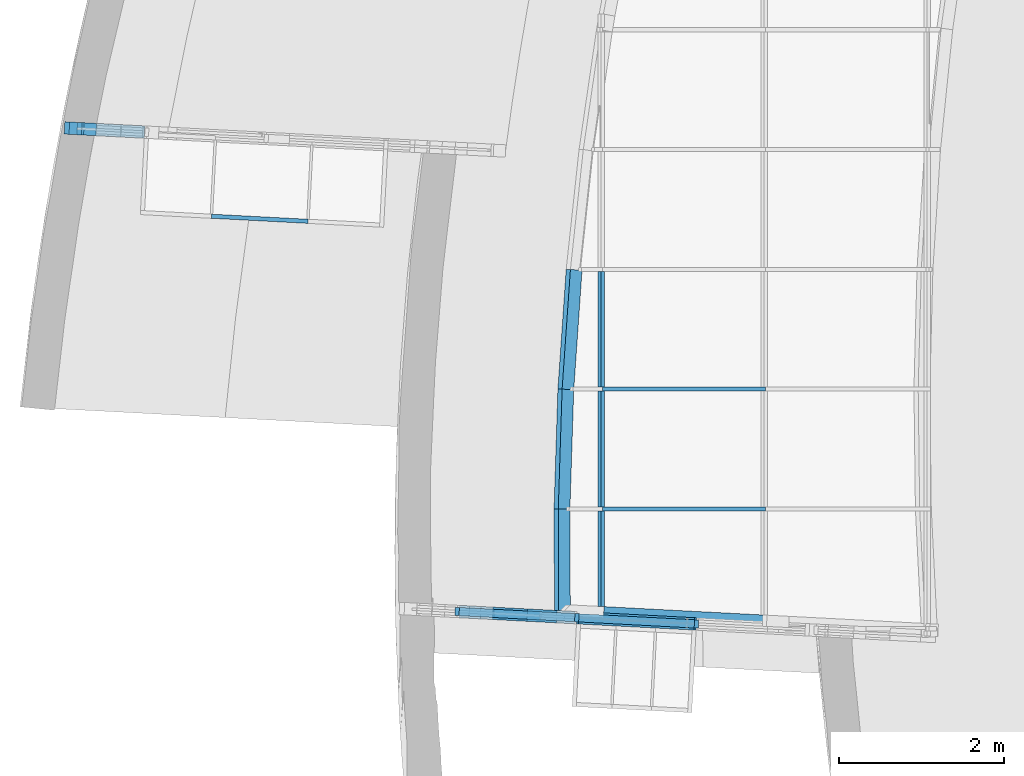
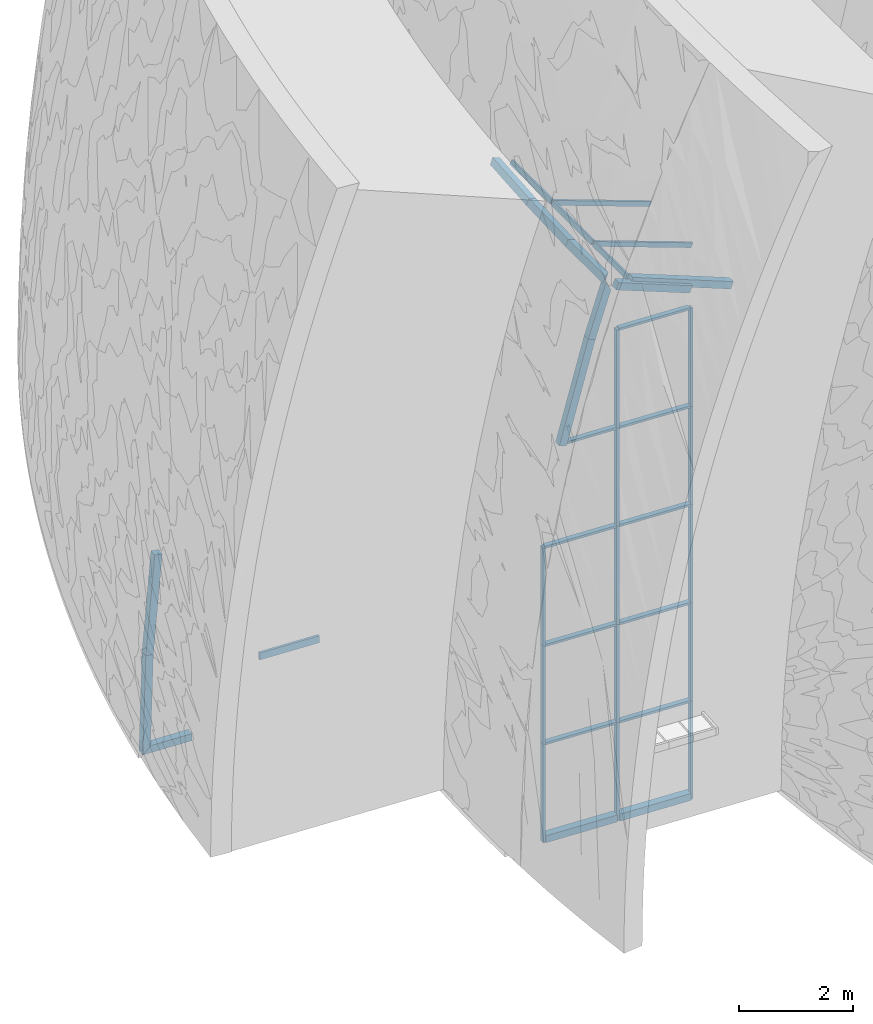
# One storey, part 8 of 82: 40 members, 3 elements without a shape of their own.
"""IFC2X3 building model written with IfcOpenShell, lengths in millimetres."""

from ifc_helpers import new_model, entity, si_unit, converted_unit, derived_unit, direction, frame, frame_2d, origin, origin_2d_with_axis, place, context, subcontext, project, spatial, polyline, rectangle, extrude, clip, halfspace, bounded_halfspace, source, transform, mapped, material, type_object, type_shapes, element, aggregate, save


model = new_model("IFC2X3")

# Units and contexts
model_context = context("Model", 3, precision=0.01, world=origin(), true_north=direction((6.12303176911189e-17, 1.0)))
body_context = subcontext(model_context, "Body", "Model", "MODEL_VIEW")
ifc_project = project(units=[si_unit("LENGTHUNIT", "METRE", prefix="MILLI"), si_unit("AREAUNIT", "SQUARE_METRE"), si_unit("VOLUMEUNIT", "CUBIC_METRE"), converted_unit("PLANEANGLEUNIT", "DEGREE", entity("IfcRatioMeasure", 0.0174532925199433), si_unit("PLANEANGLEUNIT", "RADIAN"), dimensions=[0, 0, 0, 0, 0, 0, 0]), si_unit("MASSUNIT", "GRAM", prefix="KILO"), derived_unit("MASSDENSITYUNIT", [(si_unit("MASSUNIT", "GRAM", prefix="KILO"), 1), (si_unit("LENGTHUNIT", "METRE"), -3)]), si_unit("TIMEUNIT", "SECOND"), si_unit("FREQUENCYUNIT", "HERTZ"), si_unit("THERMODYNAMICTEMPERATUREUNIT", "DEGREE_CELSIUS"), derived_unit("THERMALTRANSMITTANCEUNIT", [(si_unit("MASSUNIT", "GRAM", prefix="KILO"), 1), (si_unit("THERMODYNAMICTEMPERATUREUNIT", "KELVIN"), -1), (si_unit("TIMEUNIT", "SECOND"), -3)]), derived_unit("VOLUMETRICFLOWRATEUNIT", [(si_unit("LENGTHUNIT", "METRE"), 3), (si_unit("TIMEUNIT", "SECOND"), -1)]), si_unit("ELECTRICCURRENTUNIT", "AMPERE"), si_unit("ELECTRICVOLTAGEUNIT", "VOLT"), si_unit("POWERUNIT", "WATT"), si_unit("FORCEUNIT", "NEWTON", prefix="KILO"), si_unit("ILLUMINANCEUNIT", "LUX"), si_unit("LUMINOUSFLUXUNIT", "LUMEN"), si_unit("LUMINOUSINTENSITYUNIT", "CANDELA"), derived_unit("USERDEFINED", [(si_unit("MASSUNIT", "GRAM", prefix="KILO"), -1), (si_unit("LENGTHUNIT", "METRE"), -2), (si_unit("TIMEUNIT", "SECOND"), 3), (si_unit("LUMINOUSFLUXUNIT", "LUMEN"), 1)]), derived_unit("LINEARVELOCITYUNIT", [(si_unit("LENGTHUNIT", "METRE"), 1), (si_unit("TIMEUNIT", "SECOND"), -1)]), si_unit("PRESSUREUNIT", "PASCAL"), derived_unit("USERDEFINED", [(si_unit("LENGTHUNIT", "METRE"), -2), (si_unit("MASSUNIT", "GRAM", prefix="KILO"), 1), (si_unit("TIMEUNIT", "SECOND"), -2)])], contexts=[model_context])

# Site, building, storey
site_placement = place(None, origin())
site = spatial("IfcSite", under=ifc_project, at=site_placement, Name="表面", CompositionType="ELEMENT")
building_placement = place(site_placement, origin())
building = spatial("IfcBuilding", under=site, at=building_placement, CompositionType="ELEMENT")
storey_placement = place(building_placement, origin())
storey = spatial("IfcBuildingStorey", under=building, at=storey_placement, Name="1F", CompositionType="ELEMENT", Elevation=0.0)

# Curtain wall, members
curtain_wall_type_1 = type_object("IfcCurtainWallType", Name="幕墙系统:1450 x 2100mm", PredefinedType="NOTDEFINED")
curtain_wall_1_placement = place(storey_placement, origin())
curtain_wall_1 = element("IfcCurtainWall", 1, at=curtain_wall_1_placement, inside=storey, type_object=curtain_wall_type_1, Name="幕墙系统:1450 x 2100mm", ObjectType="幕墙系统:1450 x 2100mm")
ifc_material_1 = material(Name="木质 - 木材")
member_type_1 = type_object("IfcMemberType", Name="200 x 150mm", PredefinedType="MEMBER")
shared_shape_1 = source(origin(), body_context, "Body", "Clipping", [
    clip(extrude(rectangle(XDim=150.0, YDim=150.0, at=origin_2d_with_axis()), frame((-75.0, 0.0, -971.063289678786), z_axis=(0.0, 0.0, 1.0), x_axis=(0.0, -1.0, 0.0)), (0.0, 0.0, 1.0), 971.063289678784), halfspace(frame((0.0, -304.8, 0.0), z_axis=(-0.716916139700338, 0.0, 0.697159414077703), x_axis=(-0.697159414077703, 0.0, -0.716916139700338)), False)),
])
type_shapes(member_type_1, [shared_shape_1])
member_1_placement = place(storey_placement, frame((-45227.6702701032, -14234.7290509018, 0.0), z_axis=(-0.998629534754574, 0.0523359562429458, 0.0), x_axis=(0.0, 0.0, -1.0)))
member_1 = element("IfcMember", 2, at=member_1_placement, type_object=member_type_1, material=ifc_material_1, Name="矩形竖梃:200 x 150mm", ObjectType="200 x 150mm", context=body_context, shape_type="MappedRepresentation", body=[
    mapped(shared_shape_1, transform((0.0, 0.0, 0.0), scale=1.0)),
])
member_type_2 = type_object("IfcMemberType", Name="200 x 150mm", PredefinedType="MEMBER")
shared_shape_2 = source(origin(), body_context, "Body", "Clipping", [
    clip(clip(extrude(rectangle(XDim=150.0, YDim=150.0, at=origin_2d_with_axis()), frame((-75.0, 0.0, -2100.82000930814), z_axis=(0.0, 0.0, 1.0), x_axis=(0.0, -1.0, 0.0)), (0.0, 0.0, 1.0), 2100.82000930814), halfspace(frame((0.0, -304.8, -2100.82000930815), z_axis=(-0.716916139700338, 0.0, -0.697159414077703), x_axis=(-0.697159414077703, 0.0, 0.716916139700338)), False)), halfspace(frame((0.0, -304.800000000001, 0.0), z_axis=(-0.0279813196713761, 0.0, 0.999608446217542), x_axis=(-0.999608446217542, 0.0, -0.0279813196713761)), False)),
])
type_shapes(member_type_2, [shared_shape_2])
member_2_placement = place(storey_placement, frame((-45169.0590402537, -14237.8007352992, 2100.0), z_axis=(0.0278992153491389, -0.00146213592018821, 0.999609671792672), x_axis=(-0.998239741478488, 0.0523155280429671, 0.0279375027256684)))
member_2 = element("IfcMember", 3, at=member_2_placement, type_object=member_type_2, material=ifc_material_1, Name="矩形竖梃:200 x 150mm", ObjectType="200 x 150mm", context=body_context, shape_type="MappedRepresentation", body=[
    mapped(shared_shape_2, transform((0.0, 0.0, 0.0), scale=1.0)),
])
member_type_3 = type_object("IfcMemberType", Name="200 x 150mm", PredefinedType="MEMBER")
shared_shape_3 = source(origin(), body_context, "Body", "Clipping", [
    clip(clip(extrude(rectangle(XDim=150.0, YDim=150.0, at=frame_2d((0.0, -3.5527136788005e-14), x_axis=(1.0, 0.0))), frame((-75.0, 0.0, -2107.41487538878), z_axis=(0.0, 0.0, 1.0), x_axis=(0.0, -1.0, 0.0)), (0.0, 0.0, 1.0), 2107.41487538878), halfspace(frame((0.0, -304.799999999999, -2107.41487538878), z_axis=(-0.0279813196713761, 0.0, -0.999608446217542), x_axis=(-0.999608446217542, 0.0, 0.0279813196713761)), False)), halfspace(frame((0.0, -304.800000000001, 0.0), z_axis=(-0.0281141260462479, 0.0, 0.999604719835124), x_axis=(-0.999604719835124, 0.0, -0.0281141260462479)), False)),
])
type_shapes(member_type_3, [shared_shape_3])
member_3_placement = place(storey_placement, frame((-44992.6730840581, -14247.0447315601, 4200.0), z_axis=(0.0836977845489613, -0.00438641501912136, 0.996481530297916), x_axis=(-0.995115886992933, 0.0521518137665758, 0.0838126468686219)))
member_3 = element("IfcMember", 4, at=member_3_placement, type_object=member_type_3, material=ifc_material_1, Name="矩形竖梃:200 x 150mm", ObjectType="200 x 150mm", context=body_context, shape_type="MappedRepresentation", body=[
    mapped(shared_shape_3, transform((0.0, 0.0, 0.0), scale=1.0)),
])
aggregate(curtain_wall_1, [member_1, member_2, member_3])

curtain_wall_2_placement = place(storey_placement, origin())
curtain_wall_2 = element("IfcCurtainWall", 5, at=curtain_wall_2_placement, inside=storey, type_object=curtain_wall_type_1, Name="幕墙系统:1450 x 2100mm", ObjectType="幕墙系统:1450 x 2100mm")
ifc_material_2 = material(Name="金属 - 铝")
member_type_4 = type_object("IfcMemberType", Name="50 x 100mm", PredefinedType="MEMBER")
shared_shape_4 = source(origin(), body_context, "Body", "SweptSolid", [
    extrude(rectangle(XDim=100.0, YDim=50.0, at=origin_2d_with_axis()), frame((0.0, 0.0, -1400.0), z_axis=(0.0, 0.0, 1.0), x_axis=(0.0, -1.0, 0.0)), (0.0, 0.0, 1.0), 1400.0),
])
type_shapes(member_type_4, [shared_shape_4])
placement_1 = place(building_placement, frame((0.0, 0.0, 9000.0)))
member_4_placement = place(placement_1, frame((-38729.9799238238, -15971.8767198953, 2416.82813591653), z_axis=(0.0, 1.0, 0.0), x_axis=(-0.93969262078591, 0.0, 0.342020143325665)))
member_4 = element("IfcMember", 6, at=member_4_placement, type_object=member_type_4, material=ifc_material_2, Name="矩形竖梃:50 x 100mm", ObjectType="50 x 100mm", context=body_context, shape_type="MappedRepresentation", body=[
    mapped(shared_shape_4, transform((0.0, 0.0, 0.0), scale=1.0)),
])
member_5_placement = place(placement_1, frame((-38729.9799238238, -17421.8767198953, 2416.82813591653), z_axis=(0.0, 1.0, 0.0), x_axis=(-0.93969262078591, 0.0, 0.342020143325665)))
member_5 = element("IfcMember", 7, at=member_5_placement, type_object=member_type_4, material=ifc_material_2, Name="矩形竖梃:50 x 100mm", ObjectType="50 x 100mm", context=body_context, shape_type="MappedRepresentation", body=[
    mapped(shared_shape_4, transform((0.0, 0.0, 0.0), scale=1.0)),
])
member_6_placement = place(storey_placement, frame((-37603.4168881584, -20238.412698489, 2100.0), z_axis=(0.998629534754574, -0.0523359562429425, 0.0), x_axis=(0.0, 0.0, 1.0)))
member_6 = element("IfcMember", 8, at=member_6_placement, type_object=member_type_4, material=ifc_material_2, Name="矩形竖梃:50 x 100mm", ObjectType="50 x 100mm", context=body_context, shape_type="MappedRepresentation", body=[
    mapped(shared_shape_4, transform((0.0, 0.0, 0.0), scale=1.0)),
])
member_7_placement = place(storey_placement, frame((-39051.4297135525, -20162.5255619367, 2100.0), z_axis=(0.998629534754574, -0.0523359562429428, 0.0), x_axis=(0.0, 0.0, 1.0)))
member_7 = element("IfcMember", 9, at=member_7_placement, type_object=member_type_4, material=ifc_material_2, Name="矩形竖梃:50 x 100mm", ObjectType="50 x 100mm", context=body_context, shape_type="MappedRepresentation", body=[
    mapped(shared_shape_4, transform((0.0, 0.0, 0.0), scale=1.0)),
])
placement_2 = place(building_placement, frame((0.0, 0.0, 3000.0)))
member_8_placement = place(placement_2, frame((-37603.4168881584, -20238.412698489, 1200.0), z_axis=(0.998629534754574, -0.0523359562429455, 0.0), x_axis=(0.0, 0.0, 1.0)))
member_8 = element("IfcMember", 10, at=member_8_placement, type_object=member_type_4, material=ifc_material_2, Name="矩形竖梃:50 x 100mm", ObjectType="50 x 100mm", context=body_context, shape_type="MappedRepresentation", body=[
    mapped(shared_shape_4, transform((0.0, 0.0, 0.0), scale=1.0)),
])
member_9_placement = place(placement_2, frame((-39051.4297135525, -20162.5255619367, 1200.0), z_axis=(0.998629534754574, -0.0523359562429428, 0.0), x_axis=(0.0, 0.0, 1.0)))
member_9 = element("IfcMember", 11, at=member_9_placement, type_object=member_type_4, material=ifc_material_2, Name="矩形竖梃:50 x 100mm", ObjectType="50 x 100mm", context=body_context, shape_type="MappedRepresentation", body=[
    mapped(shared_shape_4, transform((0.0, 0.0, 0.0), scale=1.0)),
])
placement_3 = place(building_placement, frame((0.0, 0.0, 6000.0)))
member_10_placement = place(placement_3, frame((-37603.4168881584, -20238.412698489, 300.0), z_axis=(0.998629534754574, -0.0523359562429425, 0.0), x_axis=(0.0, 0.0, 1.0)))
member_10 = element("IfcMember", 12, at=member_10_placement, type_object=member_type_4, material=ifc_material_2, Name="矩形竖梃:50 x 100mm", ObjectType="50 x 100mm", context=body_context, shape_type="MappedRepresentation", body=[
    mapped(shared_shape_4, transform((0.0, 0.0, 0.0), scale=1.0)),
])
member_11_placement = place(placement_3, frame((-39051.4297135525, -20162.5255619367, 300.0), z_axis=(0.998629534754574, -0.0523359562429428, 0.0), x_axis=(0.0, 0.0, 1.0)))
member_11 = element("IfcMember", 13, at=member_11_placement, type_object=member_type_4, material=ifc_material_2, Name="矩形竖梃:50 x 100mm", ObjectType="50 x 100mm", context=body_context, shape_type="MappedRepresentation", body=[
    mapped(shared_shape_4, transform((0.0, 0.0, 0.0), scale=1.0)),
])
member_12_placement = place(placement_3, frame((-37603.4168881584, -20238.4126984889, 2400.0), z_axis=(0.998629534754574, -0.0523359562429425, 0.0), x_axis=(0.0, 0.0, 1.0)))
member_12 = element("IfcMember", 14, at=member_12_placement, type_object=member_type_4, material=ifc_material_2, Name="矩形竖梃:50 x 100mm", ObjectType="50 x 100mm", context=body_context, shape_type="MappedRepresentation", body=[
    mapped(shared_shape_4, transform((0.0, 0.0, 0.0), scale=1.0)),
])
member_13_placement = place(placement_1, frame((-37603.4168881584, -20238.4126984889, 1500.0), z_axis=(0.998629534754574, -0.0523359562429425, 0.0), x_axis=(0.0, 0.0, 1.0)))
member_13 = element("IfcMember", 15, at=member_13_placement, type_object=member_type_4, material=ifc_material_2, Name="矩形竖梃:50 x 100mm", ObjectType="50 x 100mm", context=body_context, shape_type="MappedRepresentation", body=[
    mapped(shared_shape_4, transform((0.0, 0.0, 0.0), scale=1.0)),
])
member_type_5 = type_object("IfcMemberType", Name="50 x 100mm", PredefinedType="MEMBER")
shared_shape_5 = source(origin(), body_context, "Body", "SweptSolid", [
    extrude(rectangle(XDim=100.0, YDim=50.0, at=origin_2d_with_axis()), frame((0.0, 0.0, -2100.0), z_axis=(0.0, 0.0, 1.0), x_axis=(0.0, -1.0, 0.0)), (0.0, 0.0, 1.0), 2100.0),
])
type_shapes(member_type_5, [shared_shape_5])
member_14_placement = place(storey_placement, frame((-37578.4511497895, -20239.721097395, 2100.0), z_axis=(0.0, 0.0, 1.0), x_axis=(-0.998629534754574, 0.0523359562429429, 0.0)))
member_14 = element("IfcMember", 16, at=member_14_placement, type_object=member_type_5, material=ifc_material_2, Name="矩形竖梃:50 x 100mm", ObjectType="50 x 100mm", context=body_context, shape_type="MappedRepresentation", body=[
    mapped(shared_shape_5, transform((0.0, 0.0, 0.0), scale=1.0)),
])
member_15_placement = place(storey_placement, frame((-39026.4639751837, -20163.8339608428, 2100.0), z_axis=(0.0, 0.0, 1.0), x_axis=(-0.998629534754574, 0.0523359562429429, 0.0)))
member_15 = element("IfcMember", 17, at=member_15_placement, type_object=member_type_5, material=ifc_material_2, Name="矩形竖梃:50 x 100mm", ObjectType="50 x 100mm", context=body_context, shape_type="MappedRepresentation", body=[
    mapped(shared_shape_5, transform((0.0, 0.0, 0.0), scale=1.0)),
])
member_16_placement = place(storey_placement, frame((-40474.4768005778, -20087.9468242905, 2100.0), z_axis=(0.0, 0.0, 1.0), x_axis=(-0.998629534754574, 0.0523359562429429, 0.0)))
member_16 = element("IfcMember", 18, at=member_16_placement, type_object=member_type_5, material=ifc_material_2, Name="矩形竖梃:50 x 100mm", ObjectType="50 x 100mm", context=body_context, shape_type="MappedRepresentation", body=[
    mapped(shared_shape_5, transform((0.0, 0.0, 0.0), scale=1.0)),
])
member_type_6 = type_object("IfcMemberType", Name="50 x 100mm", PredefinedType="MEMBER")
shared_shape_6 = source(origin(), body_context, "Body", "SweptSolid", [
    extrude(rectangle(XDim=100.0, YDim=50.0, at=origin_2d_with_axis()), frame((0.0, 0.0, -2100.0), z_axis=(0.0, 0.0, 1.0), x_axis=(0.0, -1.0, 0.0)), (0.0, 0.0, 1.0), 2100.0),
])
type_shapes(member_type_6, [shared_shape_6])
member_17_placement = place(placement_1, frame((-38729.9799238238, -17396.8767198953, 2416.82813591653), z_axis=(-0.939692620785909, 0.0, 0.342020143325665), x_axis=(0.0, -1.0, 0.0)))
member_17 = element("IfcMember", 19, at=member_17_placement, type_object=member_type_6, material=ifc_material_2, Name="矩形竖梃:50 x 100mm", ObjectType="50 x 100mm", context=body_context, shape_type="MappedRepresentation", body=[
    mapped(shared_shape_6, transform((0.0, 0.0, 0.0), scale=1.0)),
])
member_18_placement = place(placement_1, frame((-38729.9799238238, -18846.8767198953, 2416.82813591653), z_axis=(-0.939692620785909, 0.0, 0.342020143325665), x_axis=(0.0, -1.0, 0.0)))
member_18 = element("IfcMember", 20, at=member_18_placement, type_object=member_type_6, material=ifc_material_2, Name="矩形竖梃:50 x 100mm", ObjectType="50 x 100mm", context=body_context, shape_type="MappedRepresentation", body=[
    mapped(shared_shape_6, transform((0.0, 0.0, 0.0), scale=1.0)),
])
member_19_placement = place(storey_placement, frame((-37578.4511497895, -20239.721097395, 4200.0), z_axis=(0.0, 0.0, 1.0), x_axis=(-0.998629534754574, 0.0523359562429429, 0.0)))
member_19 = element("IfcMember", 21, at=member_19_placement, type_object=member_type_6, material=ifc_material_2, Name="矩形竖梃:50 x 100mm", ObjectType="50 x 100mm", context=body_context, shape_type="MappedRepresentation", body=[
    mapped(shared_shape_6, transform((0.0, 0.0, 0.0), scale=1.0)),
])
member_20_placement = place(storey_placement, frame((-39026.4639751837, -20163.8339608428, 4200.0), z_axis=(0.0, 0.0, 1.0), x_axis=(-0.998629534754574, 0.0523359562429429, 0.0)))
member_20 = element("IfcMember", 22, at=member_20_placement, type_object=member_type_6, material=ifc_material_2, Name="矩形竖梃:50 x 100mm", ObjectType="50 x 100mm", context=body_context, shape_type="MappedRepresentation", body=[
    mapped(shared_shape_6, transform((0.0, 0.0, 0.0), scale=1.0)),
])
member_21_placement = place(storey_placement, frame((-40474.4768005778, -20087.9468242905, 4200.0), z_axis=(0.0, 0.0, 1.0), x_axis=(-0.998629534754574, 0.0523359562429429, 0.0)))
member_21 = element("IfcMember", 23, at=member_21_placement, type_object=member_type_6, material=ifc_material_2, Name="矩形竖梃:50 x 100mm", ObjectType="50 x 100mm", context=body_context, shape_type="MappedRepresentation", body=[
    mapped(shared_shape_6, transform((0.0, 0.0, 0.0), scale=1.0)),
])
member_22_placement = place(placement_2, frame((-37578.4511497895, -20239.721097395, 3300.0), z_axis=(0.0, 0.0, 1.0), x_axis=(-0.998629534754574, 0.0523359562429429, 0.0)))
member_22 = element("IfcMember", 24, at=member_22_placement, type_object=member_type_6, material=ifc_material_2, Name="矩形竖梃:50 x 100mm", ObjectType="50 x 100mm", context=body_context, shape_type="MappedRepresentation", body=[
    mapped(shared_shape_6, transform((0.0, 0.0, 0.0), scale=1.0)),
])
member_23_placement = place(placement_2, frame((-39026.4639751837, -20163.8339608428, 3300.0), z_axis=(0.0, 0.0, 1.0), x_axis=(-0.998629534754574, 0.0523359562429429, 0.0)))
member_23 = element("IfcMember", 25, at=member_23_placement, type_object=member_type_6, material=ifc_material_2, Name="矩形竖梃:50 x 100mm", ObjectType="50 x 100mm", context=body_context, shape_type="MappedRepresentation", body=[
    mapped(shared_shape_6, transform((0.0, 0.0, 0.0), scale=1.0)),
])
member_24_placement = place(placement_2, frame((-40474.4768005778, -20087.9468242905, 3300.0), z_axis=(0.0, 0.0, 1.0), x_axis=(-0.998629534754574, 0.0523359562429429, 0.0)))
member_24 = element("IfcMember", 26, at=member_24_placement, type_object=member_type_6, material=ifc_material_2, Name="矩形竖梃:50 x 100mm", ObjectType="50 x 100mm", context=body_context, shape_type="MappedRepresentation", body=[
    mapped(shared_shape_6, transform((0.0, 0.0, 0.0), scale=1.0)),
])
member_25_placement = place(placement_3, frame((-37578.4511497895, -20239.721097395, 2400.0), z_axis=(0.0, 0.0, 1.0), x_axis=(-0.998629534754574, 0.0523359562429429, 0.0)))
member_25 = element("IfcMember", 27, at=member_25_placement, type_object=member_type_6, material=ifc_material_2, Name="矩形竖梃:50 x 100mm", ObjectType="50 x 100mm", context=body_context, shape_type="MappedRepresentation", body=[
    mapped(shared_shape_6, transform((0.0, 0.0, 0.0), scale=1.0)),
])
member_26_placement = place(placement_3, frame((-39026.4639751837, -20163.8339608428, 2400.0), z_axis=(0.0, 0.0, 1.0), x_axis=(-0.998629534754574, 0.0523359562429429, 0.0)))
member_26 = element("IfcMember", 28, at=member_26_placement, type_object=member_type_6, material=ifc_material_2, Name="矩形竖梃:50 x 100mm", ObjectType="50 x 100mm", context=body_context, shape_type="MappedRepresentation", body=[
    mapped(shared_shape_6, transform((0.0, 0.0, 0.0), scale=1.0)),
])
member_27_placement = place(placement_3, frame((-37578.4511497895, -20239.721097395, 4500.0), z_axis=(0.0, 0.0, 1.0), x_axis=(-0.998629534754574, 0.0523359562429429, 0.0)))
member_27 = element("IfcMember", 29, at=member_27_placement, type_object=member_type_6, material=ifc_material_2, Name="矩形竖梃:50 x 100mm", ObjectType="50 x 100mm", context=body_context, shape_type="MappedRepresentation", body=[
    mapped(shared_shape_6, transform((0.0, 0.0, 0.0), scale=1.0)),
])
member_28_placement = place(placement_3, frame((-39026.4639751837, -20163.8339608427, 4500.0), z_axis=(0.0, 0.0, 1.0), x_axis=(-0.998629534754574, 0.0523359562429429, 0.0)))
member_28 = element("IfcMember", 30, at=member_28_placement, type_object=member_type_6, material=ifc_material_2, Name="矩形竖梃:50 x 100mm", ObjectType="50 x 100mm", context=body_context, shape_type="MappedRepresentation", body=[
    mapped(shared_shape_6, transform((0.0, 0.0, 0.0), scale=1.0)),
])
member_type_7 = type_object("IfcMemberType", Name="200 x 150mm", PredefinedType="MEMBER")
shared_shape_7 = source(origin(), body_context, "Body", "SweptSolid", [
    extrude(rectangle(XDim=150.0, YDim=150.0, at=origin_2d_with_axis()), frame((-75.0, 0.0, -1400.0), z_axis=(0.0, 0.0, 1.0), x_axis=(0.0, -1.0, 0.0)), (0.0, 0.0, 1.0), 1400.0),
])
type_shapes(member_type_7, [shared_shape_7])
member_29_placement = place(storey_placement, frame((-39001.4982368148, -20165.1423597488, 0.0), z_axis=(-0.998629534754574, 0.0523359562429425, 0.0), x_axis=(0.0, 0.0, -1.0)))
member_29 = element("IfcMember", 31, at=member_29_placement, type_object=member_type_7, material=ifc_material_1, Name="矩形竖梃:200 x 150mm", ObjectType="200 x 150mm", context=body_context, shape_type="MappedRepresentation", body=[
    mapped(shared_shape_7, transform((0.0, 0.0, 0.0), scale=1.0)),
])
member_30_placement = place(storey_placement, frame((-40449.5110622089, -20089.2552231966, 0.0), z_axis=(-0.998629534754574, 0.0523359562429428, 0.0), x_axis=(0.0, 0.0, -1.0)))
member_30 = element("IfcMember", 32, at=member_30_placement, type_object=member_type_7, material=ifc_material_1, Name="矩形竖梃:200 x 150mm", ObjectType="200 x 150mm", context=body_context, shape_type="MappedRepresentation", body=[
    mapped(shared_shape_7, transform((0.0, 0.0, 0.0), scale=1.0)),
])
member_type_8 = type_object("IfcMemberType", Name="200 x 150mm", PredefinedType="MEMBER")
shared_shape_8 = source(origin(), body_context, "Body", "Clipping", [
    clip(clip(extrude(rectangle(XDim=150.0, YDim=150.0, at=frame_2d((2.8421709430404e-14, 1.4210854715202e-14), x_axis=(1.0, 0.0))), frame((-75.0, 0.0, -1453.95693045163), z_axis=(0.0, 0.0, 1.0), x_axis=(0.0, -1.0, 0.0)), (0.0, 0.0, 1.0), 1453.95693045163), halfspace(frame((0.0, -304.8, -1453.95693045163), z_axis=(-0.0199292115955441, 0.0, -0.999801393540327), x_axis=(-0.999801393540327, 0.0, 0.0199292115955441)), False)), halfspace(frame((0.0, -304.8, 0.0), z_axis=(-0.019988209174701, 0.0, 0.999800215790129), x_axis=(-0.999800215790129, 0.0, -0.019988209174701)), False)),
])
type_shapes(member_type_8, [shared_shape_8])
member_31_placement = place(placement_1, frame((-39129.162502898, -15946.8767198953, 2562.11871273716), z_axis=(0.0692801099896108, 0.997278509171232, -0.0252158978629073), x_axis=(-0.93713525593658, 0.0737263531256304, 0.341089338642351)))
member_31 = element("IfcMember", 33, at=member_31_placement, type_object=member_type_8, material=ifc_material_1, Name="矩形竖梃:200 x 150mm", ObjectType="200 x 150mm", context=body_context, shape_type="MappedRepresentation", body=[
    mapped(shared_shape_8, transform((0.0, 0.0, 0.0), scale=1.0)),
])
member_type_9 = type_object("IfcMemberType", Name="200 x 150mm", PredefinedType="MEMBER")
shared_shape_9 = source(origin(), body_context, "Body", "Clipping", [
    clip(clip(extrude(rectangle(XDim=150.0, YDim=150.0, at=origin_2d_with_axis()), frame((-75.0, 0.0, -1450.83516370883), z_axis=(0.0, 0.0, 1.0), x_axis=(0.0, -1.0, 0.0)), (0.0, 0.0, 1.0), 1450.83516370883), halfspace(frame((0.0, -304.8, -1450.83516370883), z_axis=(-0.0189012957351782, 0.0, -0.999821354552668), x_axis=(-0.999821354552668, 0.0, 0.0189012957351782)), False)), halfspace(frame((0.0, -304.8, 0.0), z_axis=(-0.0199292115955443, 0.0, 0.999801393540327), x_axis=(-0.999801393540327, 0.0, -0.0199292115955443)), False)),
])
type_shapes(member_type_9, [shared_shape_9])
member_32_placement = place(placement_1, frame((-39229.8927989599, -17396.8767198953, 2598.78154219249), z_axis=(0.0318797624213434, 0.999424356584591, -0.0116032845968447), x_axis=(-0.939151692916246, 0.0339257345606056, 0.341823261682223)))
member_32 = element("IfcMember", 34, at=member_32_placement, type_object=member_type_9, material=ifc_material_1, Name="矩形竖梃:200 x 150mm", ObjectType="200 x 150mm", context=body_context, shape_type="MappedRepresentation", body=[
    mapped(shared_shape_9, transform((0.0, 0.0, 0.0), scale=1.0)),
])
member_type_10 = type_object("IfcMemberType", Name="200 x 150mm", PredefinedType="MEMBER")
shared_shape_10 = source(origin(), body_context, "Body", "Clipping", [
    clip(clip(extrude(rectangle(XDim=150.0, YDim=150.0, at=origin_2d_with_axis()), frame((-75.0, 0.0, -1304.13050383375), z_axis=(0.0, 0.0, 1.0), x_axis=(0.0, -1.0, 0.0)), (0.0, 0.0, 1.0), 1304.13050383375), halfspace(frame((0.0, -304.799999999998, -1304.13050383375), z_axis=(-0.68809333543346, 0.0, -0.725622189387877), x_axis=(-0.725622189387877, 0.0, 0.68809333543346)), False)), halfspace(frame((0.0, -304.8, 0.0), z_axis=(-0.0189012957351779, 0.0, 0.999821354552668), x_axis=(-0.999821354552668, 0.0, -0.0189012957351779)), False)),
])
type_shapes(member_type_10, [shared_shape_10])
member_33_placement = place(placement_1, frame((-39276.1450792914, -18846.8767198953, 2615.61599550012), z_axis=(-0.00363904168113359, 0.999992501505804, 0.00132450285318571), x_axis=(-0.939685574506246, -0.00387258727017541, 0.342017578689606)))
member_33 = element("IfcMember", 35, at=member_33_placement, type_object=member_type_10, material=ifc_material_1, Name="矩形竖梃:200 x 150mm", ObjectType="200 x 150mm", context=body_context, shape_type="MappedRepresentation", body=[
    mapped(shared_shape_10, transform((0.0, 0.0, 0.0), scale=1.0)),
])
member_type_11 = type_object("IfcMemberType", Name="200 x 150mm", PredefinedType="MEMBER")
shared_shape_11 = source(origin(), body_context, "Body", "SweptSolid", [
    extrude(rectangle(XDim=150.0, YDim=150.0, at=origin_2d_with_axis()), frame((-75.0, 0.0, -2102.54500924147), z_axis=(0.0, 0.0, 1.0), x_axis=(0.0, -1.0, 0.0)), (0.0, 0.0, 1.0), 2102.54500924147),
])
type_shapes(member_type_11, [shared_shape_11])
member_34_placement = place(placement_1, frame((-38729.9799238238, -20179.3720315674, 2416.82813591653), z_axis=(-0.93855517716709, 0.049187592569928, 0.341606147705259), x_axis=(-0.0462212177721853, -0.998789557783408, 0.0168231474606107)))
member_34 = element("IfcMember", 36, at=member_34_placement, type_object=member_type_11, material=ifc_material_1, Name="矩形竖梃:200 x 150mm", ObjectType="200 x 150mm", context=body_context, shape_type="MappedRepresentation", body=[
    mapped(shared_shape_11, transform((0.0, 0.0, 0.0), scale=1.0)),
])
member_type_12 = type_object("IfcMemberType", Name="50 x 100mm", PredefinedType="MEMBER")
shared_shape_12 = source(origin(), body_context, "Body", "Clipping", [
    clip(clip(extrude(rectangle(XDim=100.0, YDim=50.0, at=origin_2d_with_axis()), frame((0.0, 0.0, -1158.54470538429), z_axis=(0.0, 0.0, 1.0), x_axis=(0.0, -1.0, 0.0)), (0.0, 0.0, 1.0), 1158.54470538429), bounded_halfspace(frame((-7.37813888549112, 75.0, -1157.67687800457), z_axis=(0.0491875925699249, 0.0, -0.998789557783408), x_axis=(-0.998789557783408, 0.0, -0.0491875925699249)), False, frame((0.0, 0.0, -1158.54470538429), z_axis=(0.0, 0.0, 1.0), x_axis=(0.0, -1.0, 0.0)), polyline([(50.0, -7.37813888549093), (50.0, -25.0), (-50.0, -25.0), (-50.0, -7.3781388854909), (50.0, -7.37813888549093)]))), bounded_halfspace(frame((568.788320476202, 75.0, -1129.30229115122), z_axis=(0.0491875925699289, 0.0, -0.998789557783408), x_axis=(-0.998789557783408, 0.0, -0.0491875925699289)), False, frame((0.0, 0.0, -1158.54470538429), z_axis=(0.0, 0.0, 1.0), x_axis=(0.0, -1.0, 0.0)), polyline([(-50.0, 25.0), (50.0, 25.0), (50.0, -7.3781388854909), (-50.0, -7.37813888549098), (-50.0, 25.0)]))),
])
type_shapes(member_type_12, [shared_shape_12])
member_35_placement = place(placement_1, frame((-38729.9799238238, -18871.8767198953, 2416.82813591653), z_axis=(0.0, 1.0, 0.0), x_axis=(-0.93969262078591, 0.0, 0.342020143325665)))
member_35 = element("IfcMember", 37, at=member_35_placement, type_object=member_type_12, material=ifc_material_2, Name="矩形竖梃:50 x 100mm", ObjectType="50 x 100mm", context=body_context, shape_type="MappedRepresentation", body=[
    mapped(shared_shape_12, transform((0.0, 0.0, 0.0), scale=1.0)),
])
member_type_13 = type_object("IfcMemberType", Name="200 x 150mm", PredefinedType="MEMBER")
shared_shape_13 = source(origin(), body_context, "Body", "Clipping", [
    clip(clip(extrude(rectangle(XDim=150.0, YDim=150.0, at=origin_2d_with_axis()), frame((-75.0, 0.0, -1169.2881998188), z_axis=(0.0, 0.0, 1.0), x_axis=(0.0, -1.0, 0.0)), (0.0, 0.0, 1.0), 1169.28819981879), halfspace(frame((0.0, -304.799999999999, -1169.2881998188), z_axis=(-0.0229953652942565, 0.0, -0.999735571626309), x_axis=(-0.999735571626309, 0.0, 0.0229953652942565)), False)), halfspace(frame((0.0, -304.799999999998, 0.0), z_axis=(-0.720957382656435, 0.0, 0.692979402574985), x_axis=(-0.692979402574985, 0.0, -0.720957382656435)), False)),
])
type_shapes(member_type_13, [shared_shape_13])
member_36_placement = place(placement_1, frame((-39271.3992940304, -20150.997444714, 2613.88867092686), z_axis=(0.303742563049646, -0.01591847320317, 0.952621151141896), x_axis=(-0.951315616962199, 0.0498563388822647, 0.304159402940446)))
member_36 = element("IfcMember", 38, at=member_36_placement, type_object=member_type_13, material=ifc_material_1, Name="矩形竖梃:200 x 150mm", ObjectType="200 x 150mm", context=body_context, shape_type="MappedRepresentation", body=[
    mapped(shared_shape_13, transform((0.0, 0.0, 0.0), scale=1.0)),
])
member_type_14 = type_object("IfcMemberType", Name="200 x 150mm", PredefinedType="MEMBER")
shared_shape_14 = source(origin(), body_context, "Body", "SweptSolid", [
    extrude(rectangle(XDim=150.0, YDim=150.0, at=origin_2d_with_axis()), frame((-75.0, 0.0, -1542.81054606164), z_axis=(0.0, 0.0, 1.0), x_axis=(0.0, -1.0, 0.0)), (0.0, 0.0, 1.0), 1542.81054606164),
])
type_shapes(member_type_14, [shared_shape_14])
member_37_placement = place(placement_1, frame((-37578.4511497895, -20239.721097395, 1997.705938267), z_axis=(0.93855517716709, -0.0491875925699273, -0.341606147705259), x_axis=(0.341137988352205, -0.0178782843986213, 0.939843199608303)))
member_37 = element("IfcMember", 39, at=member_37_placement, type_object=member_type_14, material=ifc_material_1, Name="矩形竖梃:200 x 150mm", ObjectType="200 x 150mm", context=body_context, shape_type="MappedRepresentation", body=[
    mapped(shared_shape_14, transform((0.0, 0.0, 0.0), scale=1.0)),
])
member_type_15 = type_object("IfcMemberType", Name="200 x 150mm", PredefinedType="MEMBER")
shared_shape_15 = source(origin(), body_context, "Body", "Clipping", [
    clip(clip(extrude(rectangle(XDim=150.0, YDim=150.0, at=frame_2d((0.0, -1.20792265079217e-13), x_axis=(1.0, 0.0))), frame((-75.0, 0.0, -2174.8169696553), z_axis=(0.0, 0.0, 1.0), x_axis=(0.0, -1.0, 0.0)), (0.0, 0.0, 1.0), 2174.8169696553), halfspace(frame((0.0, -304.800000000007, -2174.8169696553), z_axis=(-0.0240995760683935, 0.0, -0.999709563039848), x_axis=(-0.999709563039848, 0.0, 0.0240995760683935)), False)), halfspace(frame((0.0, -304.800000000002, 0.0), z_axis=(-0.0229953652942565, 0.0, 0.999735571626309), x_axis=(-0.999735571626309, 0.0, -0.0229953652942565)), False)),
])
type_shapes(member_type_15, [shared_shape_15])
member_38_placement = place(placement_3, frame((-39626.561888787, -20132.3841618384, 4500.0), z_axis=(0.259681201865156, -0.0136093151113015, 0.965598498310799), x_axis=(-0.964275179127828, 0.0505355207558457, 0.260037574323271)))
member_38 = element("IfcMember", 40, at=member_38_placement, type_object=member_type_15, material=ifc_material_1, Name="矩形竖梃:200 x 150mm", ObjectType="200 x 150mm", context=body_context, shape_type="MappedRepresentation", body=[
    mapped(shared_shape_15, transform((0.0, 0.0, 0.0), scale=1.0)),
])
member_type_16 = type_object("IfcMemberType", Name="50 x 100mm", PredefinedType="MEMBER")
shared_shape_16 = source(origin(), body_context, "Body", "Clipping", [
    clip(extrude(rectangle(XDim=100.0, YDim=50.0, at=origin_2d_with_axis()), frame((0.0, 0.0, -992.844064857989), z_axis=(0.0, 0.0, 1.0), x_axis=(0.0, -1.0, 0.0)), (0.0, 0.0, 1.0), 992.844064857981), halfspace(frame((2060.99436385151, 75.0, -431.081680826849), z_axis=(0.260037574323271, 0.0, -0.965598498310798), x_axis=(-0.965598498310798, 0.0, -0.260037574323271)), False)),
])
type_shapes(member_type_16, [shared_shape_16])
member_39_placement = place(placement_3, frame((-39051.4297135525, -20162.5255619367, 2400.0), z_axis=(0.998629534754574, -0.0523359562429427, 0.0), x_axis=(0.0, 0.0, 1.0)))
member_39 = element("IfcMember", 41, at=member_39_placement, type_object=member_type_16, material=ifc_material_2, Name="矩形竖梃:50 x 100mm", ObjectType="50 x 100mm", context=body_context, shape_type="MappedRepresentation", body=[
    mapped(shared_shape_16, transform((0.0, 0.0, 0.0), scale=1.0)),
])
aggregate(curtain_wall_2, [member_31, member_32, member_33, member_34, member_4, member_5, member_35, member_17, member_18, member_36, member_29, member_30, member_37, member_38, member_6, member_7, member_8, member_9, member_10, member_11, member_12, member_39, member_13, member_14, member_15, member_16, member_19, member_20, member_21, member_22, member_23, member_24, member_25, member_26, member_27, member_28])

# Roof, member
curtain_wall_type_2 = type_object("IfcCurtainWallType", Name="玻璃斜窗:玻璃斜窗 2", PredefinedType="NOTDEFINED")
roof_placement = place(storey_placement, origin())
roof = element("IfcRoof", 42, at=roof_placement, inside=storey, type_object=curtain_wall_type_2, Name="玻璃斜窗:玻璃斜窗 2", ObjectType="玻璃斜窗:玻璃斜窗 2", ShapeType="NOTDEFINED")
member_type_17 = type_object("IfcMemberType", Name="50 x 150mm", PredefinedType="MEMBER")
shared_shape_17 = source(origin(), body_context, "Body", "SweptSolid", [
    extrude(rectangle(XDim=150.0, YDim=50.0, at=origin_2d_with_axis()), frame((-25.0, 0.0, -1170.0), z_axis=(0.0, 0.0, 1.0), x_axis=(0.0, -1.0, 0.0)), (0.0, 0.0, 1.0), 1169.99999999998),
])
type_shapes(member_type_17, [shared_shape_17])
member_40_placement = place(storey_placement, frame((-42283.0557896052, -15390.4221026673, 2100.0), z_axis=(0.998629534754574, -0.0523359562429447, 0.0), x_axis=(-0.0523359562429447, -0.998629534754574, 0.0)))
member_40 = element("IfcMember", 43, at=member_40_placement, type_object=member_type_17, material=ifc_material_2, Name="矩形竖梃:50 x 150mm", ObjectType="50 x 150mm", context=body_context, shape_type="MappedRepresentation", body=[
    mapped(shared_shape_17, transform((0.0, 0.0, 0.0), scale=1.0)),
])
aggregate(roof, [member_40])

save(model, "model.ifc")
